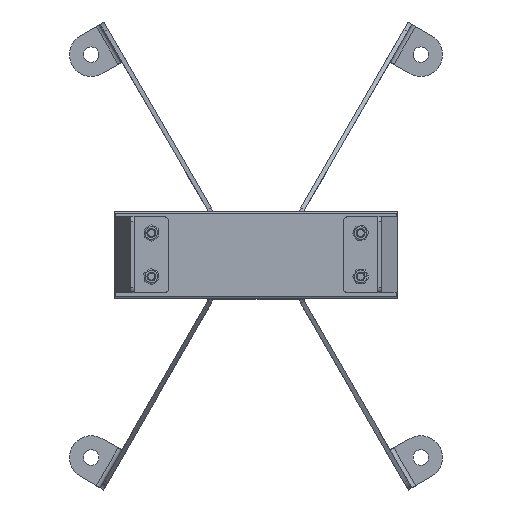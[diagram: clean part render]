
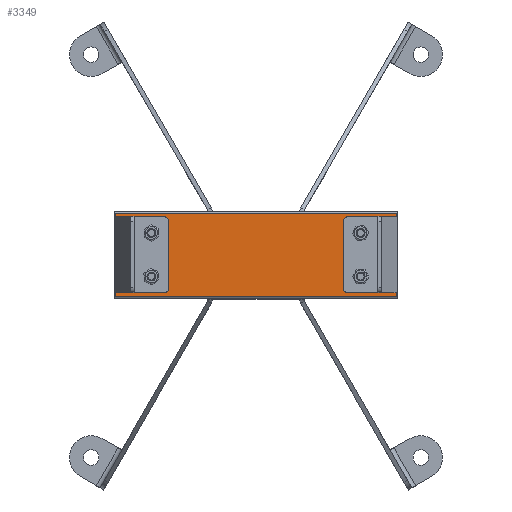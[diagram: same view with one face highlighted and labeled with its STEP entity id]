
A CAD part, top view. The second image highlights one B-rep face of the part: STEP entity #3349.
In plain terms, the highlighted planar face has unit normal (0, 0, 1) as drawn and (-1, 0, 0) by its records, which use the part's own axes.
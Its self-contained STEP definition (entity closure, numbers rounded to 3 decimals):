
#327=PLANE('',#3809);
#451=FACE_OUTER_BOUND('',#667,.T.);
#667=EDGE_LOOP('',(#2587,#2588,#2589,#2590));
#895=LINE('',#5490,#1160);
#896=LINE('',#5495,#1161);
#897=LINE('',#5498,#1162);
#898=LINE('',#5499,#1163);
#1160=VECTOR('',#4411,10.);
#1161=VECTOR('',#4418,10.);
#1162=VECTOR('',#4421,10.);
#1163=VECTOR('',#4422,10.);
#1617=VERTEX_POINT('',#5487);
#1618=VERTEX_POINT('',#5489);
#1619=VERTEX_POINT('',#5493);
#1620=VERTEX_POINT('',#5497);
#1973=EDGE_CURVE('',#1617,#1618,#895,.T.);
#1976=EDGE_CURVE('',#1618,#1619,#896,.T.);
#1977=EDGE_CURVE('',#1620,#1617,#897,.T.);
#1978=EDGE_CURVE('',#1620,#1619,#898,.T.);
#2587=ORIENTED_EDGE('',*,*,#1976,.F.);
#2588=ORIENTED_EDGE('',*,*,#1973,.F.);
#2589=ORIENTED_EDGE('',*,*,#1977,.F.);
#2590=ORIENTED_EDGE('',*,*,#1978,.T.);
#3349=ADVANCED_FACE('',(#451),#327,.T.);
#3809=AXIS2_PLACEMENT_3D('',#5496,#4419,#4420);
#4411=DIRECTION('',(0.,1.,0.));
#4418=DIRECTION('',(0.,0.,1.));
#4419=DIRECTION('center_axis',(-1.,0.,0.));
#4420=DIRECTION('ref_axis',(0.,0.,1.));
#4421=DIRECTION('',(0.,0.,-1.));
#4422=DIRECTION('',(0.,1.,0.));
#5487=CARTESIAN_POINT('',(-40.,2.,0.));
#5489=CARTESIAN_POINT('',(-40.,78.,0.));
#5490=CARTESIAN_POINT('',(-40.,0.,0.));
#5493=CARTESIAN_POINT('',(-40.,78.,260.));
#5495=CARTESIAN_POINT('',(-40.,78.,0.));
#5496=CARTESIAN_POINT('Origin',(-40.,0.,0.));
#5497=CARTESIAN_POINT('',(-40.,2.,260.));
#5498=CARTESIAN_POINT('',(-40.,2.,0.));
#5499=CARTESIAN_POINT('',(-40.,0.,260.));
